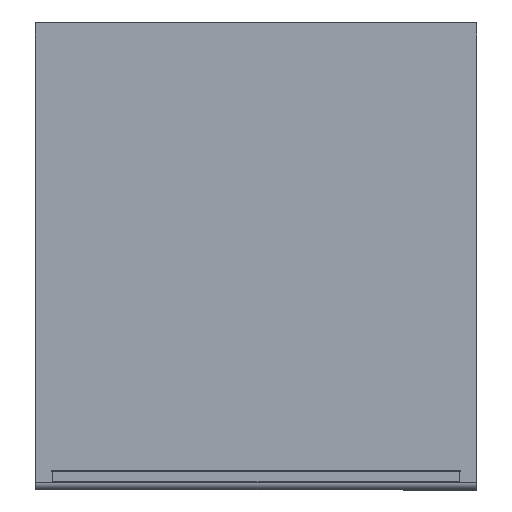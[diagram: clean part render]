
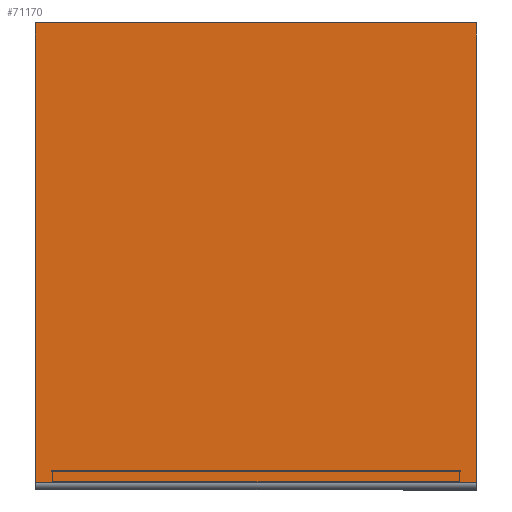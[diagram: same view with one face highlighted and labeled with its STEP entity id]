
A CAD part, top view. The second image highlights one B-rep face of the part: STEP entity #71170.
In plain terms, the highlighted planar face has unit normal (0, 0, 1).
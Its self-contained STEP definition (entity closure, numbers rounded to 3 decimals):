
#5495=LINE('',#106358,#11796);
#5496=LINE('',#106360,#11797);
#5497=LINE('',#106361,#11798);
#5498=LINE('',#106363,#11799);
#11796=VECTOR('',#87352,1000.);
#11797=VECTOR('',#87353,1000.);
#11798=VECTOR('',#87354,1000.);
#11799=VECTOR('',#87355,1000.);
#22729=ORIENTED_EDGE('',*,*,#40310,.F.);
#22730=ORIENTED_EDGE('',*,*,#40311,.T.);
#22731=ORIENTED_EDGE('',*,*,#40312,.T.);
#22732=ORIENTED_EDGE('',*,*,#40313,.T.);
#40310=EDGE_CURVE('',#49725,#49734,#5495,.T.);
#40311=EDGE_CURVE('',#49725,#49731,#5496,.T.);
#40312=EDGE_CURVE('',#49731,#49735,#5497,.T.);
#40313=EDGE_CURVE('',#49735,#49734,#5498,.T.);
#49725=VERTEX_POINT('',#106338);
#49731=VERTEX_POINT('',#106351);
#49734=VERTEX_POINT('',#106359);
#49735=VERTEX_POINT('',#106362);
#59321=EDGE_LOOP('',(#22729,#22730,#22731,#22732));
#64658=FACE_BOUND('',#59321,.T.);
#68648=PLANE('',#76315);
#71170=ADVANCED_FACE('',(#64658),#68648,.T.);
#76315=AXIS2_PLACEMENT_3D('',#106357,#87350,#87351);
#87350=DIRECTION('',(0.,0.,1.));
#87351=DIRECTION('',(0.,-1.,0.));
#87352=DIRECTION('',(1.,0.,0.));
#87353=DIRECTION('',(0.,-1.,0.));
#87354=DIRECTION('',(1.,0.,0.));
#87355=DIRECTION('',(0.,1.,0.));
#106338=CARTESIAN_POINT('',(-329.298,343.648,21.));
#106351=CARTESIAN_POINT('',(-329.298,-344.35,21.));
#106357=CARTESIAN_POINT('',(-330.,344.35,21.));
#106358=CARTESIAN_POINT('',(-330.,343.648,21.));
#106359=CARTESIAN_POINT('',(329.298,343.648,21.));
#106360=CARTESIAN_POINT('',(-329.298,343.648,21.));
#106361=CARTESIAN_POINT('',(-330.,-344.35,21.));
#106362=CARTESIAN_POINT('',(329.298,-344.35,21.));
#106363=CARTESIAN_POINT('',(329.298,-344.35,21.));
